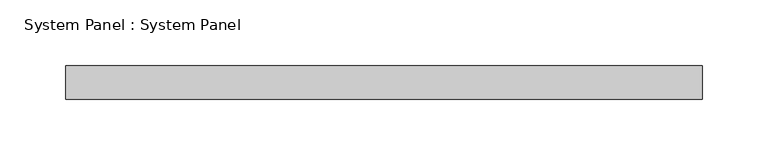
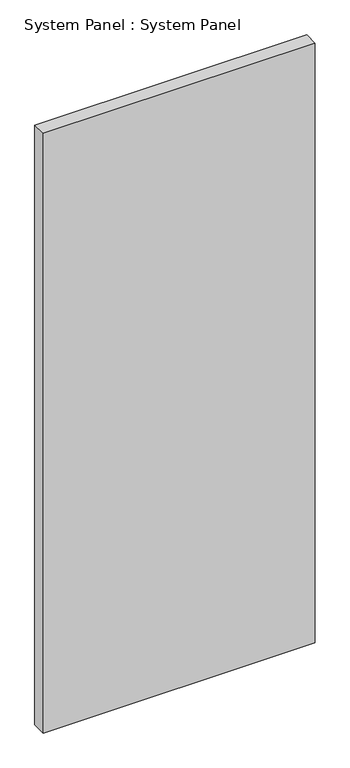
"""IFC4 building model written with IfcOpenShell, lengths in millimetres: plate geometry, System Panel : System Panel."""

from ifc_helpers import new_model, si_unit, origin, origin_with_axes, place, context, project, spatial, polyline, outline, extrude, source, transform, mapped, element, save


def system_panel_system_panel_8dc24f12(model_context):
    return source(origin(), model_context, "Body", "SweptSolid", [
        extrude(outline(polyline([(241.3, 19.05), (-241.3, 19.05), (-241.3, 44.45), (241.3, 44.45), (241.3, 19.05)])), origin_with_axes(), (0.0, 0.0, 1.0), 1123.95),
    ])


if __name__ == "__main__":
    model = new_model("IFC4")
    model_context = context("Model", 3, world=origin())
    ifc_project = project(units=[si_unit("LENGTHUNIT", "METRE", prefix="MILLI")], contexts=[model_context])
    site = spatial("IfcSite", under=ifc_project)
    building = spatial("IfcBuilding", under=site)
    placement = place(None, origin())
    system_panel_system_panel_shape = system_panel_system_panel_8dc24f12(model_context)
    element("IfcPlate", 1, ObjectType="System Panel : System Panel", at=placement, inside=building, context=model_context, shape_type="MappedRepresentation", body=[
        mapped(system_panel_system_panel_shape, transform((0.0, 0.0, 0.0), x_axis=(1.0, 0.0, 0.0), y_axis=(0.0, 1.0, 0.0), z_axis=(0.0, 0.0, 1.0))),
    ])
    save(model, "model.ifc")
